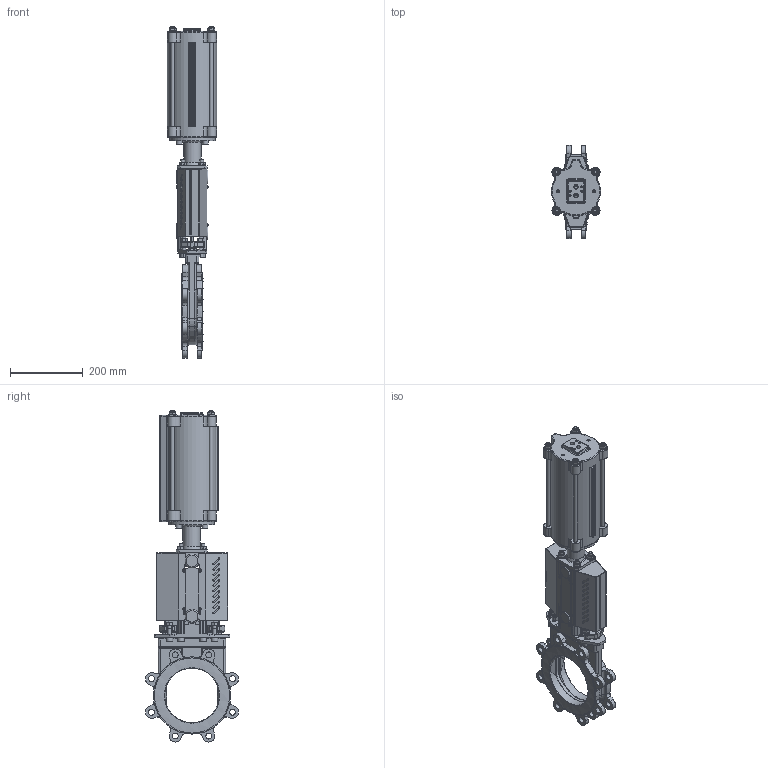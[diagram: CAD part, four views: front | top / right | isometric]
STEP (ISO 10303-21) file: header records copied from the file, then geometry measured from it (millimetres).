
FILE_DESCRIPTION(/* description */ (''),/* implementation_level */ '2;1');
FILE_NAME(/* name */ 'F:\Emir\3D-block special\WB\WB14E-DN150-PN10-FRSC125-165.stp',/* time_stamp */ '2018-04-18T08:51:02+02:00',/* author */ ('emimus'),/* organization */ (''),/* preprocessor_version */ 'ST-DEVELOPER v17',/* originating_system */ 'Autodesk Inventor 2018',/* authorisation */ '');
FILE_SCHEMA (('CONFIG_CONTROL_DESIGN'));
Products named in the file (1): WB14E-DN150-PN10-FRSC125-165_Shrinkwrap_1
Bounding box: 135 x 255.71 x 912.36 mm (x, y, z)
Volume: 3982882 mm3; surface area: 1184176.2 mm2
Topology: 3 solids, 3 shells, 2403 faces, 6347 edges, 3999 vertices
Faces by surface type: plane 1000, cylinder 737, torus 239, cone 234, bspline 133, sphere 60
Full cylindrical faces by diameter (mm): 3 x10, 4 x6, 4.134 x4, 4.2 x15, 4.5 x6, 6.4 x2, 6.647 x2, 7 x1, 8 x7, 8.2 x4, 8.376 x4, 9 x2, 10 x34, 10.5 x12, 11 x12, 11.445 x2, 13 x4, 15 x4, 16 x6, 16.307 x16, 17.7 x1, 18 x2, 20 x13, 24 x4, 28 x4, 30 x1, 30.1 x2, 34 x1, 35 x1, 36 x1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
Entity records: 80202 total; most frequent: CARTESIAN_POINT 20180, DIRECTION 13035, ORIENTED_EDGE 12622, EDGE_CURVE 6311, AXIS2_PLACEMENT_3D 5168, VERTEX_POINT 3999, LINE 2699, VECTOR 2699
